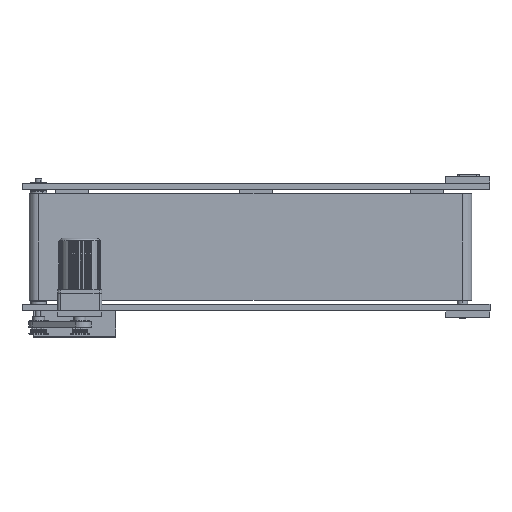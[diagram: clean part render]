
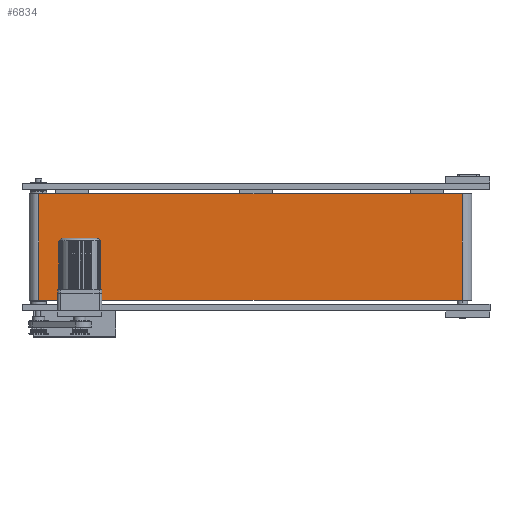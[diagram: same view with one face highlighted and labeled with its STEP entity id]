
A CAD part, front view. The second image highlights one B-rep face of the part: STEP entity #6834.
In plain terms, the highlighted planar face has unit normal (0, -1, 0).
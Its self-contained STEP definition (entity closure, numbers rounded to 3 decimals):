
#4965=PLANE('',#37684);
#6834=ADVANCED_FACE('',(#9146),#4965,.F.);
#9146=FACE_OUTER_BOUND('',#11160,.T.);
#11160=EDGE_LOOP('',(#25308,#25309,#25310,#25311));
#13135=LINE('',#67141,#15487);
#13136=LINE('',#67145,#15488);
#13141=LINE('',#67164,#15493);
#13145=LINE('',#67175,#15497);
#15487=VECTOR('',#45632,1.);
#15488=VECTOR('',#45637,1.);
#15493=VECTOR('',#45654,1.);
#15497=VECTOR('',#45666,1.);
#25308=ORIENTED_EDGE('',*,*,#33495,.T.);
#25309=ORIENTED_EDGE('',*,*,#33501,.F.);
#25310=ORIENTED_EDGE('',*,*,#33485,.F.);
#25311=ORIENTED_EDGE('',*,*,#33483,.T.);
#28574=VERTEX_POINT('',#67136);
#28576=VERTEX_POINT('',#67140);
#28578=VERTEX_POINT('',#67146);
#28585=VERTEX_POINT('',#67163);
#33483=EDGE_CURVE('',#28574,#28576,#13135,.T.);
#33485=EDGE_CURVE('',#28574,#28578,#13136,.T.);
#33495=EDGE_CURVE('',#28576,#28585,#13141,.T.);
#33501=EDGE_CURVE('',#28578,#28585,#13145,.T.);
#37684=AXIS2_PLACEMENT_3D('',#67176,#45667,#45668);
#45632=DIRECTION('',(0.,0.,-1.));
#45637=DIRECTION('',(1.,0.,0.));
#45654=DIRECTION('',(1.,0.,0.));
#45666=DIRECTION('',(0.,0.,-1.));
#45667=DIRECTION('',(0.,1.,0.));
#45668=DIRECTION('',(0.,0.,-1.));
#67136=CARTESIAN_POINT('',(0.,-17.,194.));
#67140=CARTESIAN_POINT('',(0.,-17.,0.));
#67141=CARTESIAN_POINT('',(0.,-17.,194.));
#67145=CARTESIAN_POINT('',(0.,-17.,194.));
#67146=CARTESIAN_POINT('',(770.,-17.,194.));
#67163=CARTESIAN_POINT('',(770.,-17.,0.));
#67164=CARTESIAN_POINT('',(0.,-17.,0.));
#67175=CARTESIAN_POINT('',(770.,-17.,194.));
#67176=CARTESIAN_POINT('',(0.,-17.,194.));
